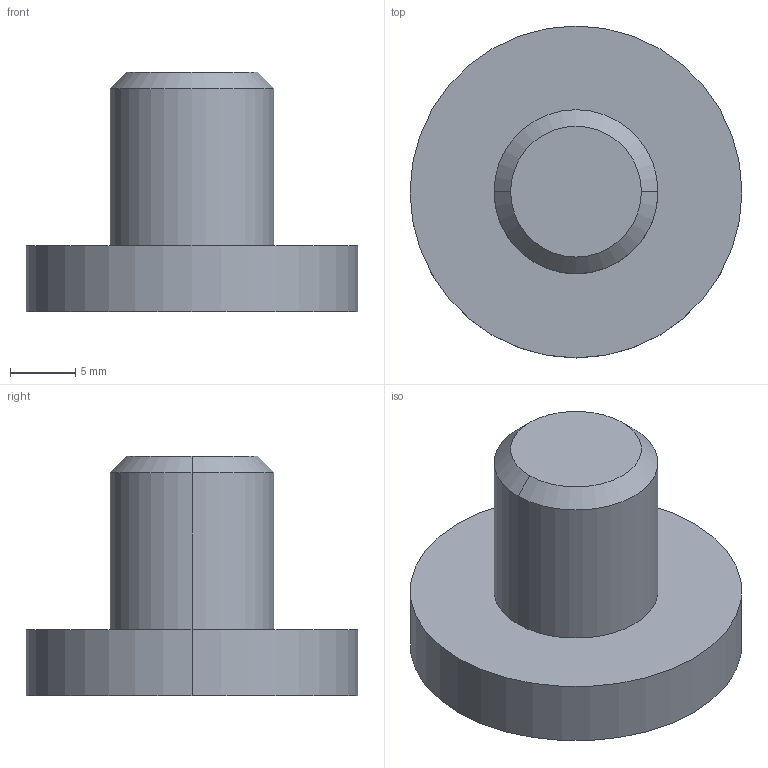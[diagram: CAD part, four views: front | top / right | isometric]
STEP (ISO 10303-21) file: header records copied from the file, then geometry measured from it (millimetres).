
FILE_DESCRIPTION(/* description */ (''),/* implementation_level */ '2;1');
FILE_NAME(/* name */ 'Makey Mold plug',/* time_stamp */ '2025-11-30T21:14:47-05:00',/* author */ (''),/* organization */ (''),/* preprocessor_version */ 'ST-DEVELOPER v19.2',/* originating_system */ 'Rhino 8.14',/* authorisation */ '');
FILE_SCHEMA (('CONFIG_CONTROL_DESIGN'));
Length unit declared in the file: inch
Products named in the file (1): Document
Bounding box: 25.4 x 25.4 x 18.36 mm (x, y, z)
Volume: 4186.9 mm3; surface area: 1910.9 mm2
Topology: 1 solids, 1 shells, 9 faces, 16 edges, 10 vertices
Faces by surface type: cylinder 4, plane 3, bspline 2
Entity records: 335 total; most frequent: CARTESIAN_POINT 81, ORIENTED_EDGE 32, DIRECTION 31, AXIS2_PLACEMENT_3D 19, EDGE_CURVE 16, EDGE_LOOP 10, TRIMMED_CURVE 10, CIRCLE 10
